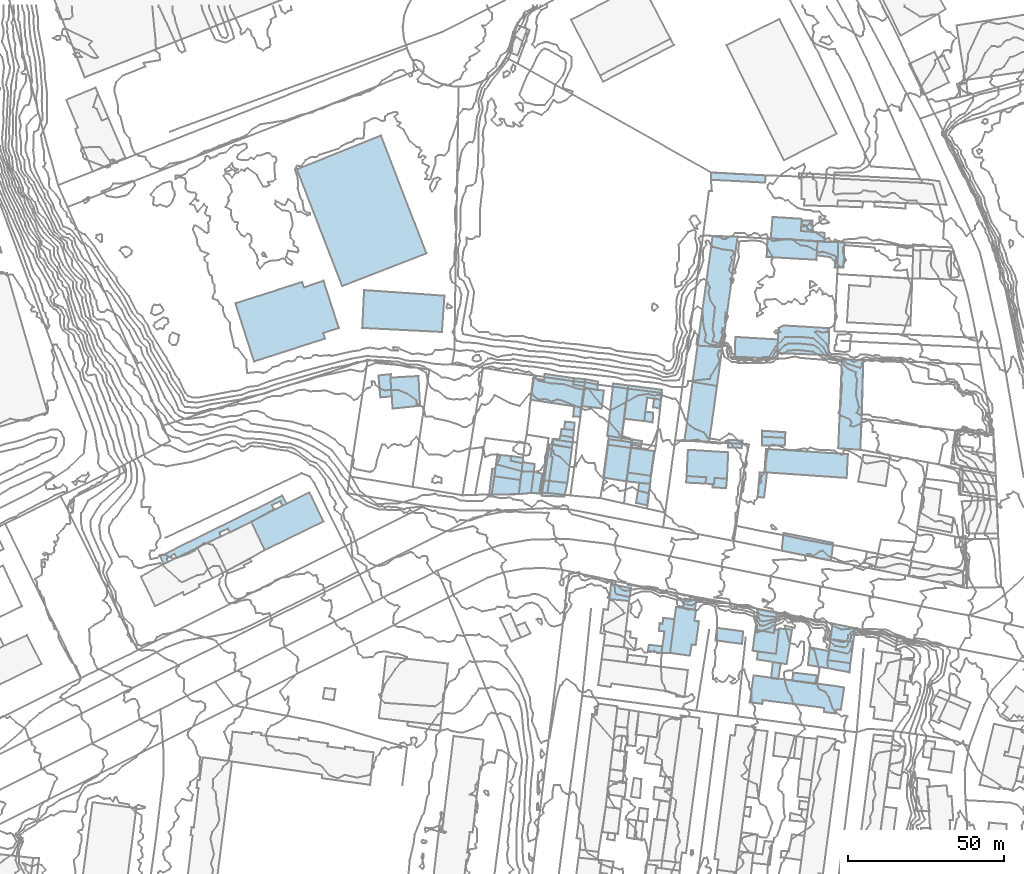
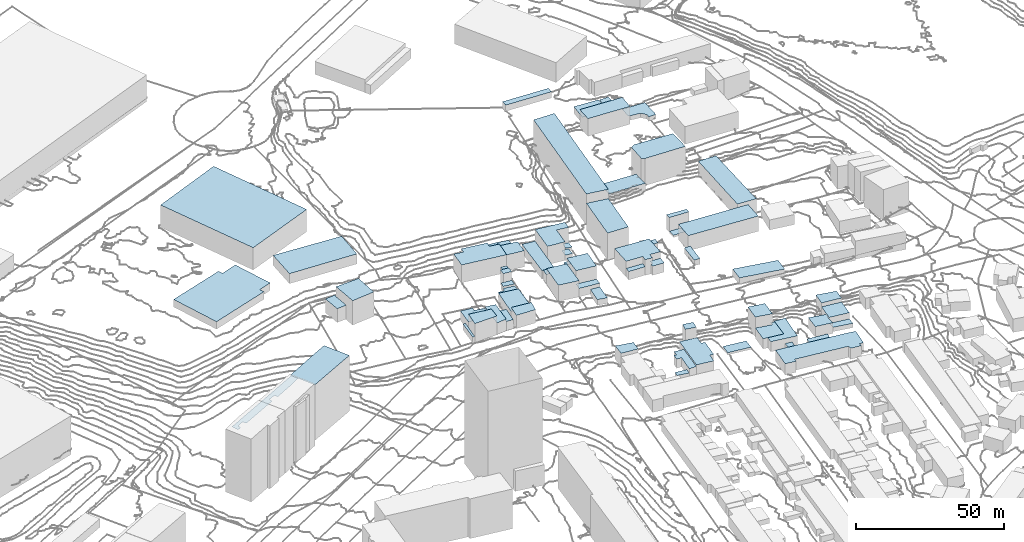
# Not in any storey, part 91 of 419: 68 roofs.
"""IFC2X3 model written with IfcOpenShell, lengths in metres."""

from ifc_helpers import new_model, si_unit, frame, origin_with_axes, place, context, subcontext, project, faceted_brep, element, save


model = new_model("IFC2X3")

# Units and contexts
model_context = context("Model", 3, precision=1e-05, world=origin_with_axes())
body_context = subcontext(model_context, "Body", "Model", "MODEL_VIEW")
ifc_project = project(units=[si_unit("AREAUNIT", "SQUARE_METRE"), si_unit("LENGTHUNIT", "METRE")], contexts=[model_context])

# Roofs
roof_1_placement = place(None, frame((546.1920204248, 951.8976909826, 48.9189990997), z_axis=(0.0, 0.0, 1.0), x_axis=(1.0, 0.0, 0.0)))
element("IfcRoof", 1, at=roof_1_placement, Name="Toiture 0", ShapeType="NOTDEFINED", context=body_context, shape_type="Brep", body=[
    faceted_brep([(16.3, 5.0999999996, 7.2810009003), (0.3, 6.0, 7.2810009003), (0.0, 0.0, 7.2810009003), (15.9, -0.9000000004, 7.2810009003)], [[[0, 1, 2]], [[2, 3, 0]]]),
])
roof_2_placement = place(None, frame((458.1920204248, 875.7976909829, 41.0071994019), z_axis=(0.0, 0.0, 1.0), x_axis=(1.0, 0.0, 0.0)))
element("IfcRoof", 2, at=roof_2_placement, Name="Toiture 0", ShapeType="NOTDEFINED", context=body_context, shape_type="Brep", body=[
    faceted_brep([(0.9, 5.8999999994, 7.6928005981), (0.0, 0.0, 7.6928005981), (8.7000000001, 0.1999999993, 7.6928005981), (9.2000000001, 4.6999999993, 7.6928005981)], [[[0, 1, 2]], [[2, 3, 0]]]),
])
roof_3_placement = place(None, frame((425.7920204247, 913.2976909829, 42.4510005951), z_axis=(0.0, 0.0, 1.0), x_axis=(1.0, 0.0, 0.0)))
element("IfcRoof", 3, at=roof_3_placement, Name="Toiture 0", ShapeType="NOTDEFINED", context=body_context, shape_type="Brep", body=[
    faceted_brep([(0.5, -6.6000000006, 10.0489994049), (0.7000000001, -9.9000000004, 10.0489994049), (9.5, -9.0, 10.0489994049), (9.0, 0.5, 10.0489994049), (0.0, 0.0, 10.0489994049)], [[[0, 1, 2]], [[2, 3, 4]], [[4, 0, 2]]]),
])
roof_4_placement = place(None, frame((545.4920204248, 882.9976909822, 43.7359992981), z_axis=(0.0, 0.0, 1.0), x_axis=(1.0, 0.0, 0.0)))
element("IfcRoof", 4, at=roof_4_placement, Name="Toiture 0", ShapeType="NOTDEFINED", context=body_context, shape_type="Brep", body=[
    faceted_brep([(0.5, 7.5, 6.2640007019), (0.0, 0.0, 6.2640007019), (26.2999999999, -1.7999999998, 6.2640007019), (26.7, 5.8000000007, 6.2640007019)], [[[0, 1, 2]], [[2, 3, 0]]]),
])
roof_5_placement = place(None, frame((547.5920204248, 817.0976909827, 39.4159999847), z_axis=(0.0, 0.0, 1.0), x_axis=(1.0, 0.0, 0.0)))
element("IfcRoof", 5, at=roof_5_placement, Name="Toiture 0", ShapeType="NOTDEFINED", context=body_context, shape_type="Brep", body=[
    faceted_brep([(0.6, 5.2000000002, 2.0840000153), (0.0, 0.0, 2.0840000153), (2.3, -0.2999999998, 2.0840000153), (3.1, 4.7000000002, 2.0840000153)], [[[0, 1, 2]], [[2, 3, 0]]]),
])
roof_6_placement = place(None, frame((511.6920204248, 832.1976909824, 38.0406999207), z_axis=(0.0, 0.0, 1.0), x_axis=(1.0, 0.0, 0.0)))
element("IfcRoof", 6, at=roof_6_placement, Name="Toiture 0", ShapeType="NOTDEFINED", context=body_context, shape_type="Brep", body=[
    faceted_brep([(3.6, -7.0, 3.7593000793), (5.0, 3.7999999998, 3.7593000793), (1.4, 4.2000000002, 3.7593000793), (1.2000000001, 2.2999999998, 3.7593000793), (0.3, 2.5, 3.7593000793), (0.0, 0.0, 3.7593000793), (1.8, -0.0999999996, 3.7593000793), (0.8, -7.0999999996, 3.7593000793)], [[[0, 1, 2]], [[3, 4, 5]], [[6, 7, 0]], [[0, 2, 3]], [[3, 5, 6]], [[6, 0, 3]]]),
])
roof_7_placement = place(None, frame((459.0920204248, 881.6976909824, 41.6847983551), z_axis=(0.0, 0.0, 1.0), x_axis=(1.0, 0.0, 0.0)))
element("IfcRoof", 7, at=roof_7_placement, Name="Toiture 0", ShapeType="NOTDEFINED", context=body_context, shape_type="Brep", body=[
    faceted_brep([(0.0, 0.0, 3.8152016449), (8.3, -1.2000000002, 3.8152016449), (9.0, 4.1000000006, 3.8152016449), (5.2, 5.0, 3.8152016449), (5.3, 6.5, 3.8152016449), (0.9, 6.9000000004, 3.8152016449)], [[[0, 1, 2]], [[3, 4, 5]], [[0, 2, 3]], [[3, 5, 0]]]),
])
roof_8_placement = place(None, frame((542.5920204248, 832.6976909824, 39.8529987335), z_axis=(0.0, 0.0, 1.0), x_axis=(1.0, 0.0, 0.0)))
element("IfcRoof", 8, at=roof_8_placement, Name="Toiture 0", ShapeType="NOTDEFINED", context=body_context, shape_type="Brep", body=[
    faceted_brep([(6.8, 5.2999999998, 8.1470012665), (0.8, 6.4000000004, 8.1470012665), (0.0, 0.0, 8.1470012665), (6.0, -1.2000000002, 8.1470012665)], [[[0, 1, 2]], [[2, 3, 0]]]),
])
roof_9_placement = place(None, frame((395.8920204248, 979.9976909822, 47.0405998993), z_axis=(0.0, 0.0, 1.0), x_axis=(1.0, 0.0, 0.0)))
element("IfcRoof", 9, at=roof_9_placement, Name="Toiture 0", ShapeType="NOTDEFINED", context=body_context, shape_type="Brep", body=[
    faceted_brep([(0.0, 0.0, 9.1594001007), (14.5, -37.3999999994, 9.1594001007), (41.3999999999, -26.8999999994, 9.1594001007), (26.8999999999, 10.8000000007, 9.1594001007)], [[[0, 1, 2]], [[2, 3, 0]]]),
])
roof_10_placement = place(None, frame((533.7920204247, 890.9976909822, 42.5391987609), z_axis=(0.0, 0.0, 1.0), x_axis=(1.0, 0.0, 0.0)))
element("IfcRoof", 10, at=roof_10_placement, Name="Toiture 0", ShapeType="NOTDEFINED", context=body_context, shape_type="Brep", body=[
    faceted_brep([(4.4, -0.1999999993, 2.3608012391), (4.7000000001, 2.1000000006, 2.3608012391), (0.1000000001, 2.4000000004, 2.3608012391), (0.0, 0.0, 2.3608012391)], [[[0, 1, 2]], [[2, 3, 0]]]),
])
roof_11_placement = place(None, frame((544.7920204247, 891.5976909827, 44.2845994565), z_axis=(0.0, 0.0, 1.0), x_axis=(1.0, 0.0, 0.0)))
element("IfcRoof", 11, at=roof_11_placement, Name="Toiture 0", ShapeType="NOTDEFINED", context=body_context, shape_type="Brep", body=[
    faceted_brep([(7.2000000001, -0.1000000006, 0.9154005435), (7.3, 2.3999999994, 0.9154005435), (0.0, 2.7999999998, 0.9154005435), (0.0, 0.0, 0.9154005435)], [[[0, 1, 2]], [[2, 3, 0]]]),
])
roof_12_placement = place(None, frame((480.1920204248, 894.7976909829, 42.2463998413), z_axis=(0.0, 0.0, 1.0), x_axis=(1.0, 0.0, 0.0)))
element("IfcRoof", 12, at=roof_12_placement, Name="Toiture 0", ShapeType="NOTDEFINED", context=body_context, shape_type="Brep", body=[
    faceted_brep([(0.0, 0.0, 2.5536001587), (4.1, -0.7000000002, 2.5536001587), (4.3, 1.6999999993, 2.5536001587), (0.4, 2.0999999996, 2.5536001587)], [[[0, 1, 2]], [[2, 3, 0]]]),
])
roof_13_placement = place(None, frame((550.9920204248, 857.8976909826, 43.0979988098), z_axis=(0.0, 0.0, 1.0), x_axis=(1.0, 0.0, 0.0)))
element("IfcRoof", 13, at=roof_13_placement, Name="Toiture 0", ShapeType="NOTDEFINED", context=body_context, shape_type="Brep", body=[
    faceted_brep([(16.5, 2.5, 2.8020011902), (0.6, 5.7000000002, 2.8020011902), (0.0, 0.0, 2.8020011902), (15.7999999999, -3.0999999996, 2.8020011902)], [[[0, 1, 2]], [[2, 3, 0]]]),
])
roof_14_placement = place(None, frame((500.4920204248, 900.0976909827, 43.4157009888), z_axis=(0.0, 0.0, 1.0), x_axis=(1.0, 0.0, 0.0)))
element("IfcRoof", 14, at=roof_14_placement, Name="Toiture 0", ShapeType="NOTDEFINED", context=body_context, shape_type="Brep", body=[
    faceted_brep([(1.4, 10.7000000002, 7.5842990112), (0.0, 0.0, 7.5842990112), (6.5, -0.7000000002, 7.5842990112), (7.5, 6.7999999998, 7.5842990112), (11.7999999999, 6.0999999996, 7.5842990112), (12.2, 9.2999999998, 7.5842990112)], [[[0, 1, 2]], [[3, 4, 5]], [[0, 2, 3]], [[3, 5, 0]]]),
])
roof_15_placement = place(None, frame((501.6920204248, 882.8976909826, 42.2700004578), z_axis=(0.0, 0.0, 1.0), x_axis=(1.0, 0.0, 0.0)))
element("IfcRoof", 15, at=roof_15_placement, Name="Toiture 0", ShapeType="NOTDEFINED", context=body_context, shape_type="Brep", body=[
    faceted_brep([(1.0, 7.9000000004, 8.7299995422), (0.0, 0.0, 8.7299995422), (7.4, -1.0, 8.7299995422), (8.5, 6.9000000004, 8.7299995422)], [[[0, 1, 2]], [[2, 3, 0]]]),
])
roof_16_placement = place(None, frame((484.2920204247, 900.8976909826, 42.6344995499), z_axis=(0.0, 0.0, 1.0), x_axis=(1.0, 0.0, 0.0)))
element("IfcRoof", 16, at=roof_16_placement, Name="Toiture 0", ShapeType="NOTDEFINED", context=body_context, shape_type="Brep", body=[
    faceted_brep([(0.0, 0.0, 2.8655004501), (2.2000000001, -0.2000000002, 2.8655004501), (2.5, 2.9000000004, 2.8655004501), (0.3, 3.2999999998, 2.8655004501)], [[[0, 1, 2]], [[2, 3, 0]]]),
])
roof_17_placement = place(None, frame((566.5920204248, 829.5976909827, 41.7505994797), z_axis=(0.0, 0.0, 1.0), x_axis=(1.0, 0.0, 0.0)))
element("IfcRoof", 17, at=roof_17_placement, Name="Toiture 0", ShapeType="NOTDEFINED", context=body_context, shape_type="Brep", body=[
    faceted_brep([(7.9, 3.5, 5.5494005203), (0.7, 5.0, 5.5494005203), (0.0, 0.0, 5.5494005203), (7.3, -0.9000000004, 5.5494005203)], [[[0, 1, 2]], [[2, 3, 0]]]),
])
roof_18_placement = place(None, frame((543.2920204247, 875.0976909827, 43.1939998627), z_axis=(0.0, 0.0, 1.0), x_axis=(1.0, 0.0, 0.0)))
element("IfcRoof", 18, at=roof_18_placement, Name="Toiture 0", ShapeType="NOTDEFINED", context=body_context, shape_type="Brep", body=[
    faceted_brep([(3.0, 7.7999999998, 2.3060001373), (2.2000000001, 7.8999999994, 2.3060001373), (0.7000000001, 7.8999999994, 2.3060001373), (0.0, 0.0, 2.3060001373), (2.1000000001, -0.2000000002, 2.3060001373)], [[[0, 1, 2]], [[2, 3, 4]], [[4, 0, 2]]]),
])
roof_19_placement = place(None, frame((528.3920204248, 976.5976909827, 50.4814996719), z_axis=(0.0, 0.0, 1.0), x_axis=(1.0, 0.0, 0.0)))
element("IfcRoof", 19, at=roof_19_placement, Name="Toiture 0", ShapeType="NOTDEFINED", context=body_context, shape_type="Brep", body=[
    faceted_brep([(0.1, 2.2999999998, 2.5185003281), (0.0, 0.0, 2.5185003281), (17.2999999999, -0.9000000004, 2.5185003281), (17.5, 1.3999999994, 2.5185003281)], [[[0, 1, 2]], [[2, 3, 0]]]),
])
roof_20_placement = place(None, frame((495.2920204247, 891.7976909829, 42.5880012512), z_axis=(0.0, 0.0, 1.0), x_axis=(1.0, 0.0, 0.0)))
element("IfcRoof", 20, at=roof_20_placement, Name="Toiture 0", ShapeType="NOTDEFINED", context=body_context, shape_type="Brep", body=[
    faceted_brep([(0.0, 0.0, 3.6119987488), (7.4, -1.0, 3.6119987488), (7.8, 1.6999999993, 3.6119987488), (0.4, 2.7999999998, 3.6119987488)], [[[0, 1, 2]], [[2, 3, 0]]]),
])
roof_21_placement = place(None, frame((506.9920204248, 899.3976909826, 43.2331013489), z_axis=(0.0, 0.0, 1.0), x_axis=(1.0, 0.0, 0.0)))
element("IfcRoof", 21, at=roof_21_placement, Name="Toiture 0", ShapeType="NOTDEFINED", context=body_context, shape_type="Brep", body=[
    faceted_brep([(2.9, 2.7000000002, 2.2668986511), (0.4, 3.0, 2.2668986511), (0.0, 0.0, 2.2668986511), (2.7, -0.4000000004, 2.2668986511)], [[[0, 1, 2]], [[2, 3, 0]]]),
])
roof_22_placement = place(None, frame((495.8920204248, 842.3976909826, 37.9790008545), z_axis=(0.0, 0.0, 1.0), x_axis=(1.0, 0.0, 0.0)))
element("IfcRoof", 22, at=roof_22_placement, Name="Toiture 0", ShapeType="NOTDEFINED", context=body_context, shape_type="Brep", body=[
    faceted_brep([(6.8999999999, 3.5, 5.5209991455), (0.5, 4.7999999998, 5.5209991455), (0.0, 0.0, 5.5209991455), (6.2999999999, -0.5999999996, 5.5209991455)], [[[0, 1, 2]], [[2, 3, 0]]]),
])
roof_23_placement = place(None, frame((502.7920204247, 891.7976909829, 43.0129997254), z_axis=(0.0, 0.0, 1.0), x_axis=(1.0, 0.0, 0.0)))
element("IfcRoof", 23, at=roof_23_placement, Name="Toiture 0", ShapeType="NOTDEFINED", context=body_context, shape_type="Brep", body=[
    faceted_brep([(0.3, 1.6999999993, 4.4870002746), (0.0, 0.0, 4.4870002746), (3.2000000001, -0.5, 4.4870002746), (3.5, 1.1999999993, 4.4870002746)], [[[0, 1, 2]], [[2, 3, 0]]]),
])
roof_24_placement = place(None, frame((504.3920204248, 873.1976909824, 41.6864009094), z_axis=(0.0, 0.0, 1.0), x_axis=(1.0, 0.0, 0.0)))
element("IfcRoof", 24, at=roof_24_placement, Name="Toiture 0", ShapeType="NOTDEFINED", context=body_context, shape_type="Brep", body=[
    faceted_brep([(1.0, 6.4000000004, 2.3135990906), (0.0, 0.0, 2.3135990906), (3.5, -0.7999999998, 2.3135990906), (4.5, 6.1000000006, 2.3135990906)], [[[0, 1, 2]], [[2, 3, 0]]]),
])
roof_25_placement = place(None, frame((495.1920204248, 894.6976909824, 42.6488001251), z_axis=(0.0, 0.0, 1.0), x_axis=(1.0, 0.0, 0.0)))
element("IfcRoof", 25, at=roof_25_placement, Name="Toiture 0", ShapeType="NOTDEFINED", context=body_context, shape_type="Brep", body=[
    faceted_brep([(0.0, 0.0, 3.5511998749), (4.5, -0.7000000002, 3.5511998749), (6.7000000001, 16.1000000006, 3.5511998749), (1.9, 16.7000000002, 3.5511998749)], [[[0, 1, 2]], [[2, 3, 0]]]),
])
roof_26_placement = place(None, frame((501.2920204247, 880.0976909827, 42.0417996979), z_axis=(0.0, 0.0, 1.0), x_axis=(1.0, 0.0, 0.0)))
element("IfcRoof", 26, at=roof_26_placement, Name="Toiture 0", ShapeType="NOTDEFINED", context=body_context, shape_type="Brep", body=[
    faceted_brep([(0.4, 2.7999999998, 3.4582003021), (0.0, 0.0, 3.4582003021), (7.6000000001, -0.7999999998, 3.4582003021), (7.8, 1.7999999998, 3.4582003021)], [[[0, 1, 2]], [[2, 3, 0]]]),
])
roof_27_placement = place(None, frame((477.3920204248, 891.9976909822, 42.0708004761), z_axis=(0.0, 0.0, 1.0), x_axis=(1.0, 0.0, 0.0)))
element("IfcRoof", 27, at=roof_27_placement, Name="Toiture 0", ShapeType="NOTDEFINED", context=body_context, shape_type="Brep", body=[
    faceted_brep([(0.0, 0.0, 1.9291995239), (6.5, -1.1999999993, 1.9291995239), (6.8999999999, 2.1000000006, 1.9291995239), (2.7999999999, 2.8000000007, 1.9291995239), (2.5, 1.5, 1.9291995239), (0.2999999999, 1.7000000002, 1.9291995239)], [[[0, 1, 2]], [[2, 3, 4]], [[4, 5, 0]], [[0, 2, 4]]]),
])
roof_28_placement = place(None, frame((528.7920204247, 879.1976909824, 42.4230003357), z_axis=(0.0, 0.0, 1.0), x_axis=(1.0, 0.0, 0.0)))
element("IfcRoof", 28, at=roof_28_placement, Name="Toiture 0", ShapeType="NOTDEFINED", context=body_context, shape_type="Brep", body=[
    faceted_brep([(4.4, -1.2999999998, 3.7769996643), (4.7000000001, 1.7000000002, 3.7769996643), (0.8, 2.0, 3.7769996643), (0.5, 0.0, 3.7769996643), (0.0, 0.0, 3.7769996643), (0.1000000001, -1.0, 3.7769996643)], [[[0, 1, 2]], [[3, 4, 5]], [[0, 2, 3]], [[3, 5, 0]]]),
])
roof_29_placement = place(None, frame((522.4920204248, 911.8976909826, 44.8530002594), z_axis=(0.0, 0.0, 1.0), x_axis=(1.0, 0.0, 0.0)))
element("IfcRoof", 29, at=roof_29_placement, Name="Toiture 0", ShapeType="NOTDEFINED", context=body_context, shape_type="Brep", body=[
    faceted_brep([(7.7999999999, -1.2999999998, 12.8469997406), (14.4, 46.5, 12.8469997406), (6.4, 46.7000000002, 12.8469997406), (0.0, 0.0, 12.8469997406)], [[[0, 1, 2]], [[2, 3, 0]]]),
])
roof_30_placement = place(None, frame((509.7920204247, 903.7976909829, 43.3439994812), z_axis=(0.0, 0.0, 1.0), x_axis=(1.0, 0.0, 0.0)))
element("IfcRoof", 30, at=roof_30_placement, Name="Toiture 0", ShapeType="NOTDEFINED", context=body_context, shape_type="Brep", body=[
    faceted_brep([(2.2000000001, -0.4000000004, 1.3560005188), (2.5, 2.3999999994, 1.3560005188), (0.4, 2.7999999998, 1.3560005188), (0.0, 0.0, 1.3560005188)], [[[0, 1, 2]], [[2, 3, 0]]]),
])
roof_31_placement = place(None, frame((547.4920204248, 957.7976909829, 50.0370014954), z_axis=(0.0, 0.0, 1.0), x_axis=(1.0, 0.0, 0.0)))
element("IfcRoof", 31, at=roof_31_placement, Name="Toiture 0", ShapeType="NOTDEFINED", context=body_context, shape_type="Brep", body=[
    faceted_brep([(0.0, 0.0, 2.6629985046), (17.2, -1.0, 2.6629985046), (17.2999999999, 1.7999999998, 2.6629985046), (9.7, 2.3999999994, 2.6629985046), (9.9, 6.2999999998, 2.6629985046), (0.6, 6.8999999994, 2.6629985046)], [[[0, 1, 2]], [[3, 4, 5]], [[0, 2, 3]], [[3, 5, 0]]]),
])
roof_32_placement = place(None, frame((519.8920204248, 893.0976909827, 42.8270998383), z_axis=(0.0, 0.0, 1.0), x_axis=(1.0, 0.0, 0.0)))
element("IfcRoof", 32, at=roof_32_placement, Name="Toiture 0", ShapeType="NOTDEFINED", context=body_context, shape_type="Brep", body=[
    faceted_brep([(0.0, 0.0, 11.0729001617), (7.8999999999, -0.2999999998, 11.0729001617), (10.3999999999, 17.5, 11.0729001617), (2.6, 18.7999999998, 11.0729001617)], [[[0, 1, 2]], [[2, 3, 0]]]),
])
roof_33_placement = place(None, frame((470.7920204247, 876.3976909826, 41.2335997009), z_axis=(0.0, 0.0, 1.0), x_axis=(1.0, 0.0, 0.0)))
element("IfcRoof", 33, at=roof_33_placement, Name="Toiture 0", ShapeType="NOTDEFINED", context=body_context, shape_type="Brep", body=[
    faceted_brep([(0.9, 6.7000000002, 3.5664002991), (0.0, 0.0, 3.5664002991), (2.6000000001, -0.2000000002, 3.5664002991), (3.6000000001, 6.2000000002, 3.5664002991)], [[[0, 1, 2]], [[2, 3, 0]]]),
])
roof_34_placement = place(None, frame((416.7920204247, 929.1976909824, 47.2854008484), z_axis=(0.0, 0.0, 1.0), x_axis=(1.0, 0.0, 0.0)))
element("IfcRoof", 34, at=roof_34_placement, Name="Toiture 0", ShapeType="NOTDEFINED", context=body_context, shape_type="Brep", body=[
    faceted_brep([(0.6000000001, 12.1000000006, 4.1145991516), (0.0, 0.0, 4.1145991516), (25.5, -1.2999999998, 4.1145991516), (26.3, 10.2999999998, 4.1145991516)], [[[0, 1, 2]], [[2, 3, 0]]]),
])
roof_35_placement = place(None, frame((515.2920204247, 825.1976909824, 38.3253993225), z_axis=(0.0, 0.0, 1.0), x_axis=(1.0, 0.0, 0.0)))
element("IfcRoof", 35, at=roof_35_placement, Name="Toiture 0", ShapeType="NOTDEFINED", context=body_context, shape_type="Brep", body=[
    faceted_brep([(1.4, 10.7999999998, 4.0746006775), (0.0, 0.0, 4.0746006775), (6.3, -0.8999999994, 4.0746006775), (6.9, 2.7000000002, 4.0746006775), (8.2000000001, 2.5, 4.0746006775), (9.2000000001, 10.1000000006, 4.0746006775), (7.8, 10.2999999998, 4.0746006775), (8.3, 13.7999999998, 4.0746006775), (1.9, 14.7000000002, 4.0746006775)], [[[0, 1, 2]], [[3, 4, 5]], [[6, 7, 8]], [[8, 0, 2]], [[3, 5, 6]], [[6, 8, 2]], [[2, 3, 6]]]),
])
roof_36_placement = place(None, frame((352.1920204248, 856.1976909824, 35.1541996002), z_axis=(0.0, 0.0, 1.0), x_axis=(1.0, 0.0, 0.0)))
element("IfcRoof", 36, at=roof_36_placement, Name="Toiture 0", ShapeType="NOTDEFINED", context=body_context, shape_type="Brep", body=[
    faceted_brep([(39.1, 16.1000000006, 20.0458003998), (40.4, 16.7999999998, 20.0458003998), (39.0, 19.2999999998, 20.0458003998), (0.0, 0.0, 20.0458003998), (1.0, -2.5, 20.0458003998), (2.4, -1.8999999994, 20.0458003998), (4.6, 0.7000000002, 20.0458003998), (5.3, -0.5999999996, 20.0458003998), (19.3, 6.2999999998, 20.0458003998), (21.6, 8.7999999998, 20.0458003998), (22.3, 7.6000000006, 20.0458003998), (29.1, 11.0, 20.0458003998), (36.3, 15.0, 20.0458003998), (35.7000000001, 16.4000000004, 20.0458003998), (38.4, 17.6000000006, 20.0458003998), (2.1, -0.7000000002, 20.0458003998), (19.0, 7.6000000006, 20.0458003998)], [[[0, 1, 2]], [[3, 4, 5]], [[6, 7, 8]], [[9, 10, 11]], [[11, 12, 13]], [[14, 0, 2]], [[3, 5, 15]], [[6, 8, 16]], [[9, 11, 13]], [[13, 14, 2]], [[3, 15, 6]], [[16, 9, 13]], [[13, 2, 3]], [[3, 6, 16]], [[16, 13, 3]]]),
])
roof_37_placement = place(None, frame((565.6920204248, 822.8976909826, 41.4136007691), z_axis=(0.0, 0.0, 1.0), x_axis=(1.0, 0.0, 0.0)))
element("IfcRoof", 37, at=roof_37_placement, Name="Toiture 0", ShapeType="NOTDEFINED", context=body_context, shape_type="Brep", body=[
    faceted_brep([(7.0, -3.9000000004, 1.7863992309), (7.3, -1.0, 1.7863992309), (0.0, 0.0, 1.7863992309), (0.1, -2.5999999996, 1.7863992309)], [[[0, 1, 2]], [[2, 3, 0]]]),
])
roof_38_placement = place(None, frame((544.7920204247, 894.3976909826, 44.8368000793), z_axis=(0.0, 0.0, 1.0), x_axis=(1.0, 0.0, 0.0)))
element("IfcRoof", 38, at=roof_38_placement, Name="Toiture 0", ShapeType="NOTDEFINED", context=body_context, shape_type="Brep", body=[
    faceted_brep([(0.0, 0.0, 6.0), (7.3, -0.4000000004, 6.0), (7.4, 1.4000000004, 6.0), (0.0, 1.9000000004, 6.0)], [[[0, 1, 2]], [[2, 3, 0]]]),
])
roof_39_placement = place(None, frame((557.1920204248, 960.1976909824, 50.6668013), z_axis=(0.0, 0.0, 1.0), x_axis=(1.0, 0.0, 0.0)))
element("IfcRoof", 39, at=roof_39_placement, Name="Toiture 0", ShapeType="NOTDEFINED", context=body_context, shape_type="Brep", body=[
    faceted_brep([(3.7000000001, 3.4000000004, 2.2331987), (0.3, 3.4000000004, 2.2331987), (0.0, 0.0, 2.2331987), (3.6, -0.2999999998, 2.2331987)], [[[0, 1, 2]], [[2, 3, 0]]]),
])
roof_40_placement = place(None, frame((519.2920204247, 839.5976909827, 38.9325999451), z_axis=(0.0, 0.0, 1.0), x_axis=(1.0, 0.0, 0.0)))
element("IfcRoof", 40, at=roof_40_placement, Name="Toiture 0", ShapeType="NOTDEFINED", context=body_context, shape_type="Brep", body=[
    faceted_brep([(4.4, 2.2999999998, 7.9674000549), (0.7000000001, 3.0, 7.9674000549), (0.0, 0.0, 7.9674000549), (3.9, -0.7000000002, 7.9674000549)], [[[0, 1, 2]], [[2, 3, 0]]]),
])
roof_41_placement = place(None, frame((508.1920204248, 825.8976909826, 37.9969993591), z_axis=(0.0, 0.0, 1.0), x_axis=(1.0, 0.0, 0.0)))
element("IfcRoof", 41, at=roof_41_placement, Name="Toiture 0", ShapeType="NOTDEFINED", context=body_context, shape_type="Brep", body=[
    faceted_brep([(0.0, 0.0, 2.1030006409), (4.3, -0.7999999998, 2.1030006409), (4.6, 1.4000000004, 2.1030006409), (0.3, 1.9000000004, 2.1030006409)], [[[0, 1, 2]], [[2, 3, 0]]]),
])
roof_42_placement = place(None, frame((535.9920204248, 919.9976909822, 44.891799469), z_axis=(0.0, 0.0, 1.0), x_axis=(1.0, 0.0, 0.0)))
element("IfcRoof", 42, at=roof_42_placement, Name="Toiture 0", ShapeType="NOTDEFINED", context=body_context, shape_type="Brep", body=[
    faceted_brep([(13.6, 1.9000000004, 3.208200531), (13.7999999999, 5.5, 3.208200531), (0.2, 6.3000000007, 3.208200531), (0.0, 0.0, 3.208200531), (13.7999999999, -0.6999999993, 3.208200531)], [[[0, 1, 2]], [[2, 3, 4]], [[4, 0, 2]]]),
])
roof_43_placement = place(None, frame((487.7920204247, 910.0976909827, 44.0066000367), z_axis=(0.0, 0.0, 1.0), x_axis=(1.0, 0.0, 0.0)))
element("IfcRoof", 43, at=roof_43_placement, Name="Toiture 0", ShapeType="NOTDEFINED", context=body_context, shape_type="Brep", body=[
    faceted_brep([(0.3, 2.7000000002, 5.1933999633), (0.0, 0.0, 5.1933999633), (4.2000000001, -0.7999999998, 5.1933999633), (4.5, 1.8999999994, 5.1933999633)], [[[0, 1, 2]], [[2, 3, 0]]]),
])
roof_44_placement = place(None, frame((421.9920204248, 913.9976909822, 42.7140007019), z_axis=(0.0, 0.0, 1.0), x_axis=(1.0, 0.0, 0.0)))
element("IfcRoof", 44, at=roof_44_placement, Name="Toiture 0", ShapeType="NOTDEFINED", context=body_context, shape_type="Brep", body=[
    faceted_brep([(3.7999999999, -0.6999999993, 5.6859992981), (4.0, 0.4000000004, 5.6859992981), (0.0, 0.0, 5.6859992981), (0.6, -7.0, 5.6859992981), (4.2999999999, -6.6999999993, 5.6859992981)], [[[0, 1, 2]], [[2, 3, 4]], [[4, 0, 2]]]),
])
roof_45_placement = place(None, frame((562.1920204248, 952.3976909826, 49.4711997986), z_axis=(0.0, 0.0, 1.0), x_axis=(1.0, 0.0, 0.0)))
element("IfcRoof", 45, at=roof_45_placement, Name="Toiture 0", ShapeType="NOTDEFINED", context=body_context, shape_type="Brep", body=[
    faceted_brep([(8.9, 4.2000000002, 1.8288002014), (0.3, 4.5999999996, 1.8288002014), (0.0, 0.0, 1.8288002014), (5.9, -2.2999999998, 1.8288002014), (5.8, -3.7999999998, 1.8288002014), (8.6, -3.7999999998, 1.8288002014), (4.5, -0.5999999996, 1.8288002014)], [[[0, 1, 2]], [[3, 4, 5]], [[0, 2, 6]], [[6, 3, 5]], [[5, 0, 6]]]),
])
roof_46_placement = place(None, frame((474.1920204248, 875.4976909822, 41.2408004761), z_axis=(0.0, 0.0, 1.0), x_axis=(1.0, 0.0, 0.0)))
element("IfcRoof", 46, at=roof_46_placement, Name="Toiture 0", ShapeType="NOTDEFINED", context=body_context, shape_type="Brep", body=[
    faceted_brep([(0.0, 0.0, 5.4591995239), (7.3, -0.2999999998, 5.4591995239), (8.2000000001, 4.1000000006, 5.4591995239), (0.8, 4.9000000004, 5.4591995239)], [[[0, 1, 2]], [[2, 3, 0]]]),
])
roof_47_placement = place(None, frame((529.7920204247, 829.1976909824, 39.0116003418), z_axis=(0.0, 0.0, 1.0), x_axis=(1.0, 0.0, 0.0)))
element("IfcRoof", 47, at=roof_47_placement, Name="Toiture 0", ShapeType="NOTDEFINED", context=body_context, shape_type="Brep", body=[
    faceted_brep([(8.5, -1.0999999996, 0.8883996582), (8.9, 2.9000000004, 0.8883996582), (0.5, 4.0, 0.8883996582), (0.0, 0.0, 0.8883996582)], [[[0, 1, 2]], [[2, 3, 0]]]),
])
roof_48_placement = place(None, frame((520.3920204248, 879.6976909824, 42.5600013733), z_axis=(0.0, 0.0, 1.0), x_axis=(1.0, 0.0, 0.0)))
element("IfcRoof", 48, at=roof_48_placement, Name="Toiture 0", ShapeType="NOTDEFINED", context=body_context, shape_type="Brep", body=[
    faceted_brep([(0.0, 0.0, 3.4399986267), (6.2, -0.2999999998, 3.4399986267), (6.5, 1.7000000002, 3.4399986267), (0.2, 2.1000000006, 3.4399986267)], [[[0, 1, 2]], [[2, 3, 0]]]),
])
roof_49_placement = place(None, frame((559.3920204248, 821.2976909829, 40.6684007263), z_axis=(0.0, 0.0, 1.0), x_axis=(1.0, 0.0, 0.0)))
element("IfcRoof", 49, at=roof_49_placement, Name="Toiture 0", ShapeType="NOTDEFINED", context=body_context, shape_type="Brep", body=[
    faceted_brep([(6.2999999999, 1.5999999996, 4.4315992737), (6.8999999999, 4.3999999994, 4.4315992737), (0.6, 5.6999999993, 4.4315992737), (0.0, 0.0, 4.4315992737), (6.3999999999, -1.0, 4.4315992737)], [[[0, 1, 2]], [[2, 3, 4]], [[4, 0, 2]]]),
])
roof_50_placement = place(None, frame((569.0920204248, 890.6976909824, 44.1744997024), z_axis=(0.0, 0.0, 1.0), x_axis=(1.0, 0.0, 0.0)))
element("IfcRoof", 50, at=roof_50_placement, Name="Toiture 0", ShapeType="NOTDEFINED", context=body_context, shape_type="Brep", body=[
    faceted_brep([(7.1, -0.5, 5.9255002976), (8.0, 28.2000000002, 5.9255002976), (1.2, 28.5, 5.9255002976), (0.0, 0.0, 5.9255002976)], [[[0, 1, 2]], [[2, 3, 0]]]),
])
roof_51_placement = place(None, frame((470.5920204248, 906.1976909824, 42.7679992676), z_axis=(0.0, 0.0, 1.0), x_axis=(1.0, 0.0, 0.0)))
element("IfcRoof", 51, at=roof_51_placement, Name="Toiture 0", ShapeType="NOTDEFINED", context=body_context, shape_type="Brep", body=[
    faceted_brep([(0.0, 0.0, 7.3320007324), (16.2, -2.3999999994, 7.3320007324), (17.2, 4.2999999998, 7.3320007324), (13.6, 4.9000000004, 7.3320007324), (14.0, 6.9000000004, 7.3320007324), (4.6, 8.2999999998, 7.3320007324), (4.4, 6.2999999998, 7.3320007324), (0.9, 6.9000000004, 7.3320007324)], [[[0, 1, 2]], [[3, 4, 5]], [[6, 7, 0]], [[0, 2, 3]], [[3, 5, 6]], [[6, 0, 3]]]),
])
roof_52_placement = place(None, frame((484.1920204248, 911.0976909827, 44.0698001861), z_axis=(0.0, 0.0, 1.0), x_axis=(1.0, 0.0, 0.0)))
element("IfcRoof", 52, at=roof_52_placement, Name="Toiture 0", ShapeType="NOTDEFINED", context=body_context, shape_type="Brep", body=[
    faceted_brep([(0.0, 0.0, 5.2301998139), (3.6, -0.6000000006, 5.2301998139), (3.9, 1.7000000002, 5.2301998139), (0.4, 2.0, 5.2301998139)], [[[0, 1, 2]], [[2, 3, 0]]]),
])
roof_53_placement = place(None, frame((493.8920204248, 881.2976909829, 42.0278996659), z_axis=(0.0, 0.0, 1.0), x_axis=(1.0, 0.0, 0.0)))
element("IfcRoof", 53, at=roof_53_placement, Name="Toiture 0", ShapeType="NOTDEFINED", context=body_context, shape_type="Brep", body=[
    faceted_brep([(0.0, 0.0, 6.6721003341), (7.3999999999, -1.2000000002, 6.6721003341), (8.7999999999, 9.5, 6.6721003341), (1.3999999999, 10.5, 6.6721003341)], [[[0, 1, 2]], [[2, 3, 0]]]),
])
roof_54_placement = place(None, frame((376.1920204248, 937.0976909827, 47.1326005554), z_axis=(0.0, 0.0, 1.0), x_axis=(1.0, 0.0, 0.0)))
element("IfcRoof", 54, at=roof_54_placement, Name="Toiture 0", ShapeType="NOTDEFINED", context=body_context, shape_type="Brep", body=[
    faceted_brep([(21.4, 6.7999999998, 3.0673994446), (0.0, 0.0, 3.0673994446), (6.0, -18.6000000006, 3.0673994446), (28.7000000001, -11.2999999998, 3.0673994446), (28.1, -9.5, 3.0673994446), (33.1, -7.9000000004, 3.0673994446), (28.2000000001, 7.2000000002, 3.0673994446), (22.0, 5.0999999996, 3.0673994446)], [[[0, 1, 2]], [[2, 3, 4]], [[4, 5, 6]], [[7, 0, 2]], [[2, 4, 6]], [[6, 7, 2]]]),
])
roof_55_placement = place(None, frame((464.2920204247, 886.6976909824, 42.165001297), z_axis=(0.0, 0.0, 1.0), x_axis=(1.0, 0.0, 0.0)))
element("IfcRoof", 55, at=roof_55_placement, Name="Toiture 0", ShapeType="NOTDEFINED", context=body_context, shape_type="Brep", body=[
    faceted_brep([(0.0, 0.0, 2.134998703), (3.8, -0.8999999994, 2.134998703), (4.0, 0.9000000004, 2.134998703), (0.1000000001, 1.5, 2.134998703)], [[[0, 1, 2]], [[2, 3, 0]]]),
])
roof_56_placement = place(None, frame((466.8920204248, 875.9976909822, 41.1874002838), z_axis=(0.0, 0.0, 1.0), x_axis=(1.0, 0.0, 0.0)))
element("IfcRoof", 56, at=roof_56_placement, Name="Toiture 0", ShapeType="NOTDEFINED", context=body_context, shape_type="Brep", body=[
    faceted_brep([(1.2, 9.8000000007, 4.6125997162), (0.0, 0.0, 4.6125997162), (3.8999999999, 0.4000000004, 4.6125997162), (5.1, 9.6000000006, 4.6125997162), (1.5, 10.2000000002, 4.6125997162)], [[[0, 1, 2]], [[2, 3, 4]], [[4, 0, 2]]]),
])
roof_57_placement = place(None, frame((457.3920204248, 875.8976909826, 41.0071994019), z_axis=(0.0, 0.0, 1.0), x_axis=(1.0, 0.0, 0.0)))
element("IfcRoof", 57, at=roof_57_placement, Name="Toiture 0", ShapeType="NOTDEFINED", context=body_context, shape_type="Brep", body=[
    faceted_brep([(1.0, 8.2000000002, 2.3928005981), (0.0, 0.0, 2.3928005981), (0.7999999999, -0.0999999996, 2.3928005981), (2.0, 8.2999999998, 2.3928005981)], [[[0, 1, 2]], [[2, 3, 0]]]),
])
roof_58_placement = place(None, frame((565.6920204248, 822.8976909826, 41.5790000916), z_axis=(0.0, 0.0, 1.0), x_axis=(1.0, 0.0, 0.0)))
element("IfcRoof", 58, at=roof_58_placement, Name="Toiture 0", ShapeType="NOTDEFINED", context=body_context, shape_type="Brep", body=[
    faceted_brep([(8.2000000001, 5.7999999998, 4.1209999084), (0.9, 6.7000000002, 4.1209999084), (0.0, 0.0, 4.1209999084), (7.3, -1.0, 4.1209999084)], [[[0, 1, 2]], [[2, 3, 0]]]),
])
roof_59_placement = place(None, frame((520.5920204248, 881.7976909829, 42.4500007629), z_axis=(0.0, 0.0, 1.0), x_axis=(1.0, 0.0, 0.0)))
element("IfcRoof", 59, at=roof_59_placement, Name="Toiture 0", ShapeType="NOTDEFINED", context=body_context, shape_type="Brep", body=[
    faceted_brep([(9.0, -0.6000000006, 6.4499992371), (12.9, -0.9000000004, 6.4499992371), (13.3, 7.5999999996, 6.4499992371), (0.4, 8.3999999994, 6.4499992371), (0.0, 0.0, 6.4499992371), (6.3, -0.4000000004, 6.4499992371), (6.0, -2.4000000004, 6.4499992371), (8.2, -2.6000000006, 6.4499992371), (8.7, -2.6000000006, 6.4499992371)], [[[0, 1, 2]], [[2, 3, 4]], [[5, 6, 7]], [[7, 8, 0]], [[2, 4, 5]], [[5, 7, 0]], [[0, 2, 5]]]),
])
roof_60_placement = place(None, frame((543.0920204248, 823.0976909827, 39.3309999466), z_axis=(0.0, 0.0, 1.0), x_axis=(1.0, 0.0, 0.0)))
element("IfcRoof", 60, at=roof_60_placement, Name="Toiture 0", ShapeType="NOTDEFINED", context=body_context, shape_type="Brep", body=[
    faceted_brep([(6.1, 1.7999999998, 4.1690000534), (0.3, 2.5, 4.1690000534), (0.0, 0.0, 4.1690000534), (9.5, -1.5, 4.1690000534), (11.2, 9.5999999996, 4.1690000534), (7.0, 9.8999999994, 4.1690000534)], [[[0, 1, 2]], [[3, 4, 5]], [[0, 2, 3]], [[3, 5, 0]]]),
])
roof_61_placement = place(None, frame((541.6920204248, 825.8976909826, 39.3385000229), z_axis=(0.0, 0.0, 1.0), x_axis=(1.0, 0.0, 0.0)))
element("IfcRoof", 61, at=roof_61_placement, Name="Toiture 0", ShapeType="NOTDEFINED", context=body_context, shape_type="Brep", body=[
    faceted_brep([(6.9, 5.5999999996, 4.1614999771), (0.9, 6.7999999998, 4.1614999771), (0.0, 0.0, 4.1614999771), (7.5, -1.0, 4.1614999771), (8.4, 6.5999999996, 4.1614999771), (6.9, 6.9000000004, 4.1614999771)], [[[0, 1, 2]], [[2, 3, 4]], [[4, 5, 0]], [[0, 2, 4]]]),
])
roof_62_placement = place(None, frame((540.7920204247, 809.3976909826, 38.9419998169), z_axis=(0.0, 0.0, 1.0), x_axis=(1.0, 0.0, 0.0)))
element("IfcRoof", 62, at=roof_62_placement, Name="Toiture 0", ShapeType="NOTDEFINED", context=body_context, shape_type="Brep", body=[
    faceted_brep([(30.2000000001, 4.7000000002, 4.5580001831), (27.5, 5.2000000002, 4.5580001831), (1.2000000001, 8.5999999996, 4.5580001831), (0.0, 0.0, 4.5580001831), (4.0, -0.5, 4.5580001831), (23.7000000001, -1.7999999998, 4.5580001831), (23.7000000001, -3.0999999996, 4.5580001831), (27.6000000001, -3.5999999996, 4.5580001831), (27.7000000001, -2.2999999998, 4.5580001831), (29.1000000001, -2.4000000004, 4.5580001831), (4.1000000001, 0.7000000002, 4.5580001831), (22.5, -1.5999999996, 4.5580001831)], [[[0, 1, 2]], [[2, 3, 4]], [[5, 6, 7]], [[8, 9, 0]], [[2, 4, 10]], [[5, 7, 8]], [[8, 0, 2]], [[2, 10, 11]], [[11, 5, 8]], [[8, 2, 11]]]),
])
roof_63_placement = place(None, frame((554.3920204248, 816.2976909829, 40.1048003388), z_axis=(0.0, 0.0, 1.0), x_axis=(1.0, 0.0, 0.0)))
element("IfcRoof", 63, at=roof_63_placement, Name="Toiture 0", ShapeType="NOTDEFINED", context=body_context, shape_type="Brep", body=[
    faceted_brep([(0.0, 0.0, 2.9951996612), (7.2999999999, -1.0, 2.9951996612), (7.8999999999, 1.6999999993, 2.9951996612), (0.2999999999, 2.5999999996, 2.9951996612)], [[[0, 1, 2]], [[2, 3, 0]]]),
])
roof_64_placement = place(None, frame((481.3920204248, 896.7976909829, 42.4159994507), z_axis=(0.0, 0.0, 1.0), x_axis=(1.0, 0.0, 0.0)))
element("IfcRoof", 64, at=roof_64_placement, Name="Toiture 0", ShapeType="NOTDEFINED", context=body_context, shape_type="Brep", body=[
    faceted_brep([(0.0, 0.0, 6.0), (3.1, -0.3000000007, 6.0), (3.3999999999, 2.0999999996, 6.0), (0.2999999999, 2.3999999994, 6.0)], [[[0, 1, 2]], [[2, 3, 0]]]),
])
roof_65_placement = place(None, frame((486.9920204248, 904.1976909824, 43.080800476), z_axis=(0.0, 0.0, 1.0), x_axis=(1.0, 0.0, 0.0)))
element("IfcRoof", 65, at=roof_65_placement, Name="Toiture 0", ShapeType="NOTDEFINED", context=body_context, shape_type="Brep", body=[
    faceted_brep([(0.7999999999, 5.9000000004, 6.619199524), (0.0, 0.0, 6.619199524), (6.4, -0.7999999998, 6.619199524), (7.1, 4.9000000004, 6.619199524)], [[[0, 1, 2]], [[2, 3, 0]]]),
])
roof_66_placement = place(None, frame((474.9920204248, 880.3976909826, 41.5239997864), z_axis=(0.0, 0.0, 1.0), x_axis=(1.0, 0.0, 0.0)))
element("IfcRoof", 66, at=roof_66_placement, Name="Toiture 0", ShapeType="NOTDEFINED", context=body_context, shape_type="Brep", body=[
    faceted_brep([(1.7, 11.5, 3.4760002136), (0.0, 0.0, 3.4760002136), (7.4, -0.7999999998, 3.4760002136), (8.9, 10.4000000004, 3.4760002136)], [[[0, 1, 2]], [[2, 3, 0]]]),
])
roof_67_placement = place(None, frame((549.5920204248, 921.8976909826, 45.7330001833), z_axis=(0.0, 0.0, 1.0), x_axis=(1.0, 0.0, 0.0)))
element("IfcRoof", 67, at=roof_67_placement, Name="Toiture 0", ShapeType="NOTDEFINED", context=body_context, shape_type="Brep", body=[
    faceted_brep([(0.4, 7.2999999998, 11.1669998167), (0.0, 0.0, 11.1669998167), (1.0, -0.7999999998, 11.1669998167), (16.4, -1.4000000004, 11.1669998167), (16.6, 7.2000000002, 11.1669998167), (2.0, 8.0999999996, 11.1669998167)], [[[0, 1, 2]], [[2, 3, 4]], [[4, 5, 0]], [[0, 2, 4]]]),
])
roof_68_placement = place(None, frame((381.2920204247, 867.1976909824, 36.6640010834), z_axis=(0.0, 0.0, 1.0), x_axis=(1.0, 0.0, 0.0)))
element("IfcRoof", 68, at=roof_68_placement, Name="Toiture 0", ShapeType="NOTDEFINED", context=body_context, shape_type="Brep", body=[
    faceted_brep([(18.6000000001, 9.4000000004, 22.9359989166), (11.3, 5.7999999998, 22.9359989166), (0.0, 0.0, 22.9359989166), (4.3, -9.0999999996, 22.9359989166), (23.1000000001, 0.1000000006, 22.9359989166)], [[[0, 1, 2]], [[2, 3, 4]], [[4, 0, 2]]]),
])

save(model, "model.ifc")
